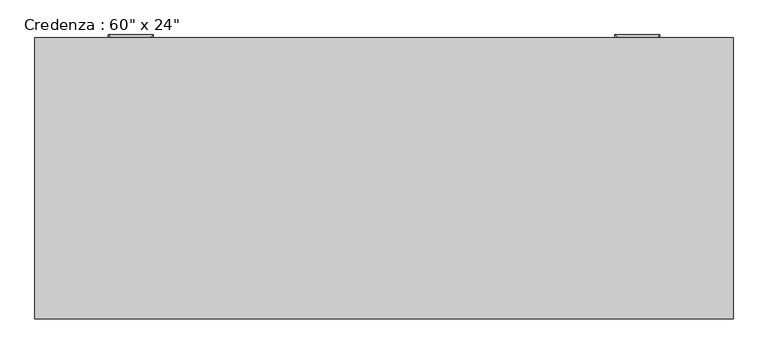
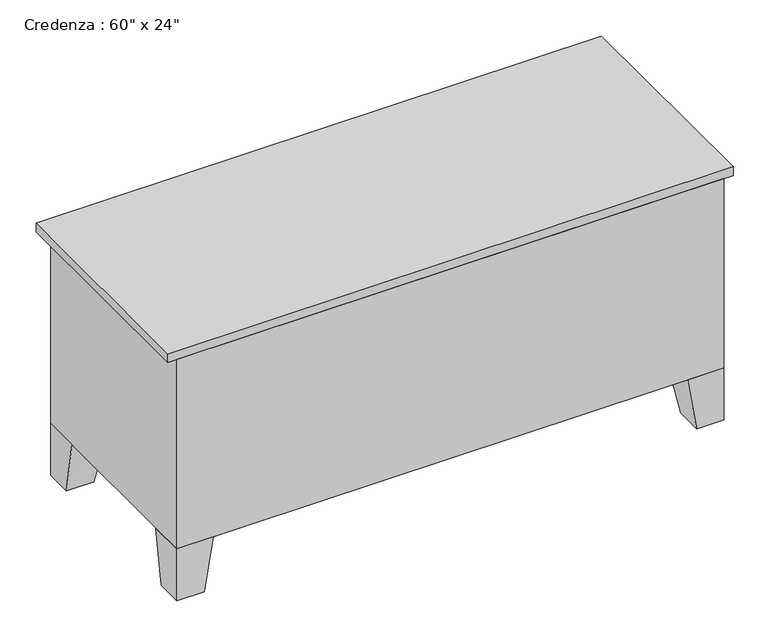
"""IFC4 building model written with IfcOpenShell, lengths in millimetres: furniture geometry."""

from ifc_helpers import new_model, si_unit, frame, origin, place, context, project, spatial, polyline, outline, extrude, faceted_brep, source, transform, mapped, element, save


def furniture_2f1724fb(model_context):
    return source(origin(), model_context, "Body", "SolidModel", [
        extrude(outline(polyline([(455.5023176, 267.2714583), (455.5023176, 254.5714583), (46.8442623, 254.5714583), (46.8442623, 267.2714583), (455.5023176, 267.2714583)])), frame((0.0, 0.0, 171.45), z_axis=(0.0, 0.0, 1.0), x_axis=(1.0, 0.0, 0.0)), (0.0, 0.0, 1.0), 520.7),
        extrude(outline(polyline([(73.6254475, 279.9714583), (73.6254475, 267.2714583), (-302.4057377, 267.2714583), (-302.4057377, 279.9714583), (73.6254475, 279.9714583)])), frame((0.0, 0.0, 171.45), z_axis=(0.0, 0.0, 1.0), x_axis=(1.0, 0.0, 0.0)), (0.0, 0.0, 1.0), 520.7),
        faceted_brep([(719.9442623, -309.3803279, 152.4), (821.5442623, -309.3803279, 152.4), (821.5442623, -207.7803279, 152.4), (719.9442623, -207.7803279, 152.4), (745.3442623, -309.3803279, 0.0), (745.3442623, -233.1803279, 0.0), (821.5442623, -233.1803279, 0.0), (821.5442623, -309.3803279, 0.0)], [[[0, 1, 2, 3]], [[4, 5, 6, 7]], [[4, 0, 3, 5]], [[5, 3, 2, 6]], [[6, 2, 1, 7]], [[7, 1, 0, 4]]]),
        extrude(outline(polyline([(802.4942623, 306.5696721), (802.4942623, 300.2196721), (440.5442623, 300.2196721), (440.5442623, 306.5696721), (802.4942623, 306.5696721)])), frame((0.0, 0.0, 584.2), z_axis=(0.0, 0.0, 1.0), x_axis=(1.0, 0.0, 0.0)), (0.0, 0.0, 1.0), 107.95),
        extrude(outline(polyline([(802.4942623, 306.5696721), (802.4942623, 300.2196721), (440.5442623, 300.2196721), (440.5442623, 306.5696721), (802.4942623, 306.5696721)])), frame((0.0, 0.0, 171.45), z_axis=(0.0, 0.0, 1.0), x_axis=(1.0, 0.0, 0.0)), (0.0, 0.0, 1.0), 393.7),
        extrude(outline(polyline([(-321.4557377, 306.5696721), (-321.4557377, 300.2196721), (-683.4057377, 300.2196721), (-683.4057377, 306.5696721), (-321.4557377, 306.5696721)])), frame((0.0, 0.0, 584.2), z_axis=(0.0, 0.0, 1.0), x_axis=(1.0, 0.0, 0.0)), (0.0, 0.0, 1.0), 107.95),
        extrude(outline(polyline([(-321.4557377, 306.5696721), (-321.4557377, 300.2196721), (-683.4057377, 300.2196721), (-683.4057377, 306.5696721), (-321.4557377, 306.5696721)])), frame((0.0, 0.0, 171.45), z_axis=(0.0, 0.0, 1.0), x_axis=(1.0, 0.0, 0.0)), (0.0, 0.0, 1.0), 393.7),
        faceted_brep([(-600.8557377, 300.2196721, 152.4), (-702.4557377, 300.2196721, 152.4), (-702.4557377, 198.6196721, 152.4), (-600.8557377, 198.6196721, 152.4), (-626.2557377, 300.2196721, 0.0), (-626.2557377, 224.0196721, 0.0), (-702.4557377, 224.0196721, 0.0), (-702.4557377, 300.2196721, 0.0)], [[[0, 1, 2, 3]], [[4, 5, 6, 7]], [[4, 0, 3, 5]], [[5, 3, 2, 6]], [[6, 2, 1, 7]], [[7, 1, 0, 4]]]),
        faceted_brep([(-600.8557377, -309.3803279, 152.4), (-600.8557377, -207.7803279, 152.4), (-702.4557377, -207.7803279, 152.4), (-702.4557377, -309.3803279, 152.4), (-626.2557377, -309.3803279, 0.0), (-702.4557377, -309.3803279, 0.0), (-702.4557377, -233.1803279, 0.0), (-626.2557377, -233.1803279, 0.0)], [[[0, 1, 2, 3]], [[4, 5, 6, 7]], [[4, 0, 3, 5]], [[5, 3, 2, 6]], [[6, 2, 1, 7]], [[7, 1, 0, 4]]]),
        faceted_brep([(719.9442623, 300.2196721, 152.4), (719.9442623, 198.6196721, 152.4), (821.5442623, 198.6196721, 152.4), (821.5442623, 300.2196721, 152.4), (745.3442623, 300.2196721, 0.0), (821.5442623, 300.2196721, 0.0), (821.5442623, 224.0196721, 0.0), (745.3442623, 224.0196721, 0.0)], [[[0, 1, 2, 3]], [[4, 5, 6, 7]], [[4, 0, 3, 5]], [[5, 3, 2, 6]], [[6, 2, 1, 7]], [[7, 1, 0, 4]]]),
        faceted_brep([(821.5442623, -309.3803279, 711.2), (821.5442623, 300.2196721, 711.2), (-702.4557377, 300.2196721, 711.2), (-702.4557377, -309.3803279, 711.2), (821.5442623, -309.3803279, 152.4), (-702.4557377, -309.3803279, 152.4), (-702.4557377, 300.2196721, 152.4), (821.5442623, 300.2196721, 152.4), (-302.4057377, 300.2196721, 692.15), (-302.4057377, 300.2196721, 171.45), (421.4942623, 300.2196721, 171.45), (421.4942623, 300.2196721, 692.15), (421.4942623, -290.3303279, 692.15), (421.4942623, -290.3303279, 171.45), (-302.4057377, -290.3303279, 171.45), (-302.4057377, -290.3303279, 692.15)], [[[0, 1, 2, 3]], [[4, 5, 6, 7]], [[3, 5, 4, 0]], [[2, 6, 5, 3]], [[1, 7, 6, 2], [8, 9, 10, 11]], [[0, 4, 7, 1]], [[12, 13, 14, 15]], [[15, 8, 11, 12]], [[14, 9, 8, 15]], [[13, 10, 9, 14]], [[12, 11, 10, 13]]]),
        extrude(outline(polyline([(846.9442623, -309.3803279), (-727.8557377, -309.3803279), (-727.8557377, 325.6196721), (846.9442623, 325.6196721), (846.9442623, -309.3803279)])), frame((0.0, 0.0, 711.2), z_axis=(0.0, 0.0, 1.0), x_axis=(1.0, 0.0, 0.0)), (0.0, 0.0, 1.0), 25.4),
        faceted_brep([(-556.4057377, 306.5696721, 527.05), (-562.7557377, 306.5696721, 527.05), (-562.7557377, 306.5696721, 514.35), (-556.4057377, 306.5696721, 514.35), (-556.4057377, 325.6196721, 514.35), (-556.4057377, 325.6196721, 527.05), (-562.7557377, 331.9696721, 514.35), (-562.7557377, 331.9696721, 527.05), (-467.5057377, 325.6196721, 514.35), (-467.5057377, 325.6196721, 527.05), (-461.1557377, 331.9696721, 514.35), (-461.1557377, 331.9696721, 527.05), (-467.5057377, 306.5696721, 527.05), (-467.5057377, 306.5696721, 514.35), (-461.1557377, 306.5696721, 514.35), (-461.1557377, 306.5696721, 527.05)], [[[0, 1, 2, 3]], [[3, 4, 5, 0]], [[2, 6, 4, 3]], [[1, 7, 6, 2]], [[0, 5, 7, 1]], [[4, 8, 9, 5]], [[6, 10, 8, 4]], [[7, 11, 10, 6]], [[5, 9, 11, 7]], [[12, 13, 14, 15]], [[8, 13, 12, 9]], [[10, 14, 13, 8]], [[11, 15, 14, 10]], [[9, 12, 15, 11]]]),
        faceted_brep([(-556.4057377, 306.5696721, 654.05), (-562.7557377, 306.5696721, 654.05), (-562.7557377, 306.5696721, 641.35), (-556.4057377, 306.5696721, 641.35), (-556.4057377, 325.6196721, 641.35), (-556.4057377, 325.6196721, 654.05), (-562.7557377, 331.9696721, 641.35), (-562.7557377, 331.9696721, 654.05), (-467.5057377, 325.6196721, 641.35), (-467.5057377, 325.6196721, 654.05), (-461.1557377, 331.9696721, 641.35), (-461.1557377, 331.9696721, 654.05), (-467.5057377, 306.5696721, 654.05), (-467.5057377, 306.5696721, 641.35), (-461.1557377, 306.5696721, 641.35), (-461.1557377, 306.5696721, 654.05)], [[[0, 1, 2, 3]], [[3, 4, 5, 0]], [[2, 6, 4, 3]], [[1, 7, 6, 2]], [[0, 5, 7, 1]], [[4, 8, 9, 5]], [[6, 10, 8, 4]], [[7, 11, 10, 6]], [[5, 9, 11, 7]], [[12, 13, 14, 15]], [[8, 13, 12, 9]], [[10, 14, 13, 8]], [[11, 15, 14, 10]], [[9, 12, 15, 11]]]),
        faceted_brep([(586.5942623, 306.5696721, 654.1373112), (580.2442623, 306.5696721, 654.1373112), (580.2442623, 306.5696721, 641.4373112), (586.5942623, 306.5696721, 641.4373112), (586.5942623, 325.6196721, 641.4373112), (586.5942623, 325.6196721, 654.1373112), (580.2442623, 331.9696721, 641.4373112), (580.2442623, 331.9696721, 654.1373112), (675.4942623, 325.6196721, 641.4373112), (675.4942623, 325.6196721, 654.1373112), (681.8442623, 331.9696721, 641.4373112), (681.8442623, 331.9696721, 654.1373112), (675.4942623, 306.5696721, 654.1373112), (675.4942623, 306.5696721, 641.4373112), (681.8442623, 306.5696721, 641.4373112), (681.8442623, 306.5696721, 654.1373112)], [[[0, 1, 2, 3]], [[3, 4, 5, 0]], [[2, 6, 4, 3]], [[1, 7, 6, 2]], [[0, 5, 7, 1]], [[4, 8, 9, 5]], [[6, 10, 8, 4]], [[7, 11, 10, 6]], [[5, 9, 11, 7]], [[12, 13, 14, 15]], [[8, 13, 12, 9]], [[10, 14, 13, 8]], [[11, 15, 14, 10]], [[9, 12, 15, 11]]]),
        faceted_brep([(586.5942623, 306.5696721, 527.05), (580.2442623, 306.5696721, 527.05), (580.2442623, 306.5696721, 514.35), (586.5942623, 306.5696721, 514.35), (586.5942623, 325.6196721, 514.35), (586.5942623, 325.6196721, 527.05), (580.2442623, 331.9696721, 514.35), (580.2442623, 331.9696721, 527.05), (675.4942623, 325.6196721, 514.35), (675.4942623, 325.6196721, 527.05), (681.8442623, 331.9696721, 514.35), (681.8442623, 331.9696721, 527.05), (675.4942623, 306.5696721, 527.05), (675.4942623, 306.5696721, 514.35), (681.8442623, 306.5696721, 514.35), (681.8442623, 306.5696721, 527.05)], [[[0, 1, 2, 3]], [[3, 4, 5, 0]], [[2, 6, 4, 3]], [[1, 7, 6, 2]], [[0, 5, 7, 1]], [[4, 8, 9, 5]], [[6, 10, 8, 4]], [[7, 11, 10, 6]], [[5, 9, 11, 7]], [[12, 13, 14, 15]], [[8, 13, 12, 9]], [[10, 14, 13, 8]], [[11, 15, 14, 10]], [[9, 12, 15, 11]]]),
    ])


if __name__ == "__main__":
    model = new_model("IFC4")
    model_context = context("Model", 3, world=origin())
    ifc_project = project(units=[si_unit("LENGTHUNIT", "METRE", prefix="MILLI")], contexts=[model_context])
    site = spatial("IfcSite", under=ifc_project)
    building = spatial("IfcBuilding", under=site)
    placement = place(None, origin())
    furniture_shape = furniture_2f1724fb(model_context)
    element("IfcFurniture", 1, ObjectType="Credenza : 60\" x 24\"", at=placement, inside=building, context=model_context, shape_type="MappedRepresentation", body=[
        mapped(furniture_shape, transform((0.0, 0.0, 0.0), x_axis=(1.0, 0.0, 0.0), y_axis=(0.0, 1.0, 0.0), z_axis=(0.0, 0.0, 1.0))),
    ])
    save(model, "model.ifc")
